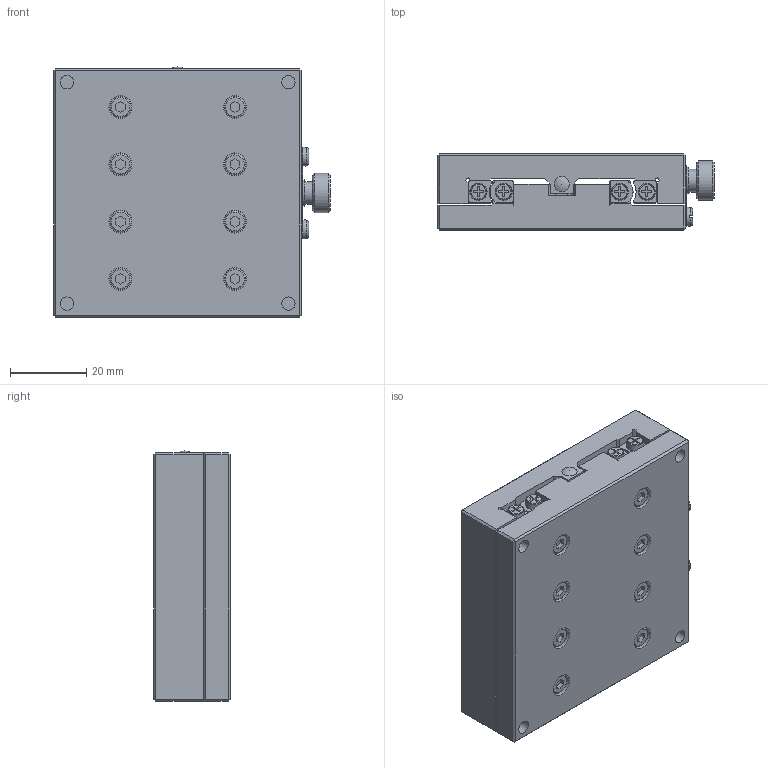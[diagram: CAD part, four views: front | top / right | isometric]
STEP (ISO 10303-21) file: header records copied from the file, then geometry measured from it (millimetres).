
FILE_DESCRIPTION(/* description */ ('STEP AP214'),/* implementation_level */ '2;1');
FILE_NAME(/* name */ 'NH2-65_65-AL-MF',/* time_stamp */ '2025-04-24T11:45:16+02:00',/* author */ ('License CC BY-ND 4.0'),/* organization */ ('CADENAS'),/* preprocessor_version */ 'ST-DEVELOPER v19.3',/* originating_system */ 'PARTsolutions',/* authorisation */ ' ');
FILE_SCHEMA (('AUTOMOTIVE_DESIGN {1 0 10303 214 3 1 1}'));
Length unit declared in the file: millimetre
Products named in the file (5): NH2-65/65-AL-MF; NH2-65/65-AL-MF_d; NH2-65/65-AL-OF_b; NH2-65/65-AL-OF_b2; NH2-65/65-AL-OF_c
Assembly tree (4 placements, depth 2):
  NH2-65/65-AL-MF
    NH2-65/65-AL-MF_d
    NH2-65/65-AL-OF_b
    NH2-65/65-AL-OF_b2
    NH2-65/65-AL-OF_c
Bounding box: 72.5 x 20 x 65.5 mm (x, y, z)
Volume: 78113.9 mm3; surface area: 28859 mm2
Topology: 3 solids, 3 shells, 623 faces, 1537 edges, 992 vertices
Faces by surface type: plane 440, cylinder 138, torus 28, cone 16, sphere 1
Full cylindrical faces by diameter (mm): 2 x2, 2.1 x2, 2.459 x4, 2.46 x10, 3 x1, 3.5 x4, 5.5 x16, 6 x21, 7 x1, 10.3 x1
Entity records: 17861 total; most frequent: CARTESIAN_POINT 3084, DIRECTION 3023, ORIENTED_EDGE 2850, EDGE_CURVE 1425, LINE 1051, VECTOR 1051, AXIS2_PLACEMENT_3D 986, VERTEX_POINT 982
